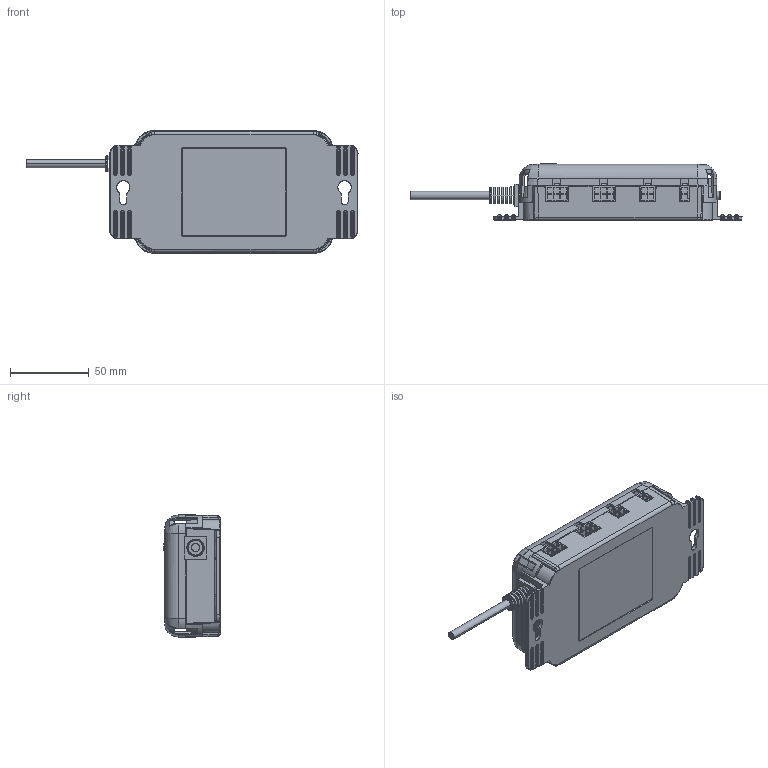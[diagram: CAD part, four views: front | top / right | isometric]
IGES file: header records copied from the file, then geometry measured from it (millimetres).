
Start section: SolidWorks IGES file using analytic representation for surfaces
Global section: file name: C:\Users\USER\Desktop\cf32_a.IGS; native system: SolidWorks 2023; preprocessor: SolidWorks 2023; author: USER; date: 250320.132609; units: millimetre
Bounding box: 211.39 x 36 x 78 mm (x, y, z)
Surface area: 62618.7 mm2 (no closed solid volume)
Topology: 0 solids, 0 shells, 950 faces, 8643 edges, 8607 vertices
Faces by surface type: bspline 592, revolution 358
